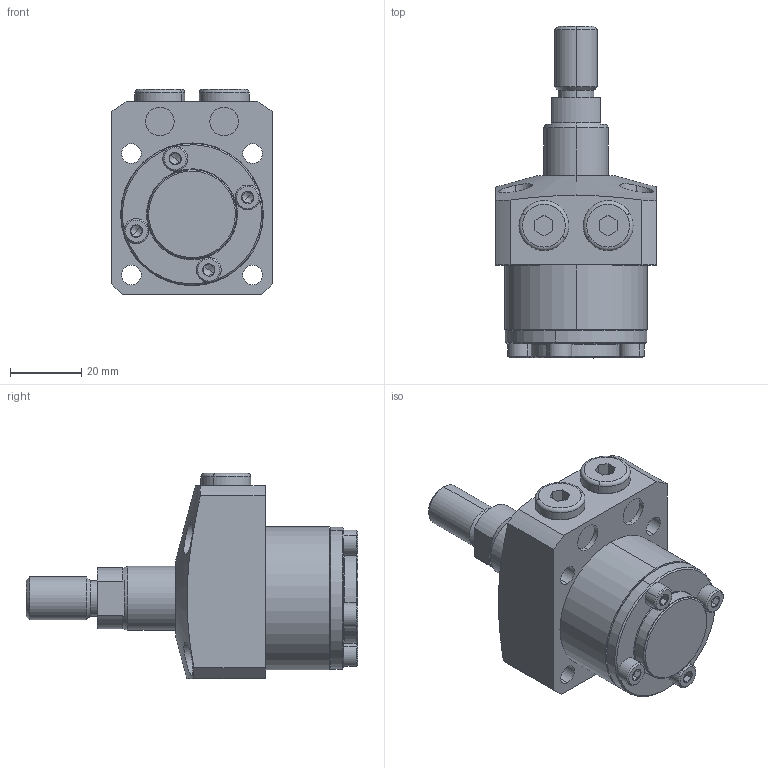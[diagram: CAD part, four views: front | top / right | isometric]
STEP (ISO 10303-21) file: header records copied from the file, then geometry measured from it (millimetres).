
FILE_DESCRIPTION (( 'STEP AP203' ), '1' );
FILE_NAME ('680400-CT-015.step', '2016-11-02T03:18:10', ( 'wxp' ), ( '' ), 'SwSTEP 2.0', 'SolidWorks 2011', '' );
FILE_SCHEMA (( 'CONFIG_CONTROL_DESIGN' ));
Length unit declared in the file: millimetre
Products named in the file (6): 680400-CT-015; 葩璃 680400-15-12^680400-CT-015; 葩璃 68036-15-5^680400-CT-015; 葩璃 680400-15-4^680400-CT-015; 葩璃 680400-15-3^680400-CT-015; 葩璃 680400-15-1^680400-CT-015
Assembly tree (9 placements, depth 2):
  680400-CT-015
    葩璃 680400-15-3^680400-CT-015
    葩璃 680400-15-12^680400-CT-015
    葩璃 680400-15-4^680400-CT-015  x4
    葩璃 680400-15-1^680400-CT-015
    葩璃 68036-15-5^680400-CT-015  x2
Bounding box: 45 x 93 x 57.5 mm (x, y, z)
Volume: 86169.8 mm3; surface area: 22990.8 mm2
Topology: 9 solids, 9 shells, 278 faces, 552 edges, 309 vertices
Faces by surface type: plane 109, cylinder 81, cone 72, torus 16
Entity records: 5387 total; most frequent: CARTESIAN_POINT 1111, DIRECTION 821, ORIENTED_EDGE 668, AXIS2_PLACEMENT_3D 342, EDGE_CURVE 334, VERTEX_POINT 202, EDGE_LOOP 192, CIRCLE 171
